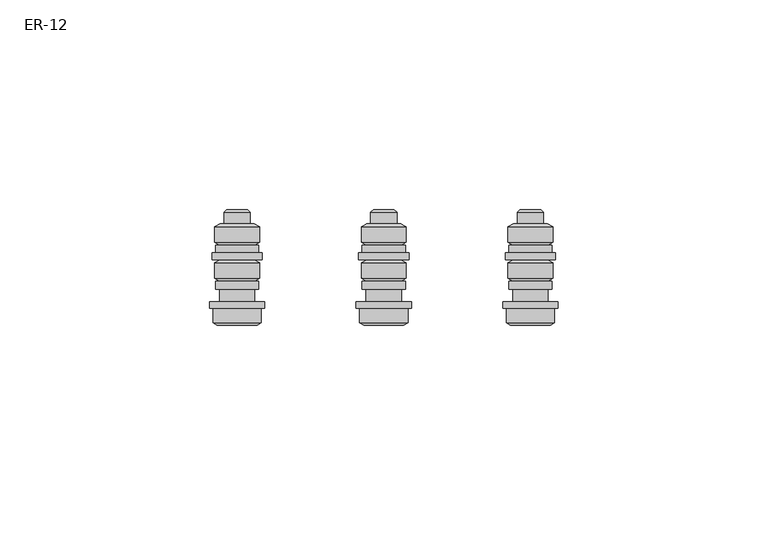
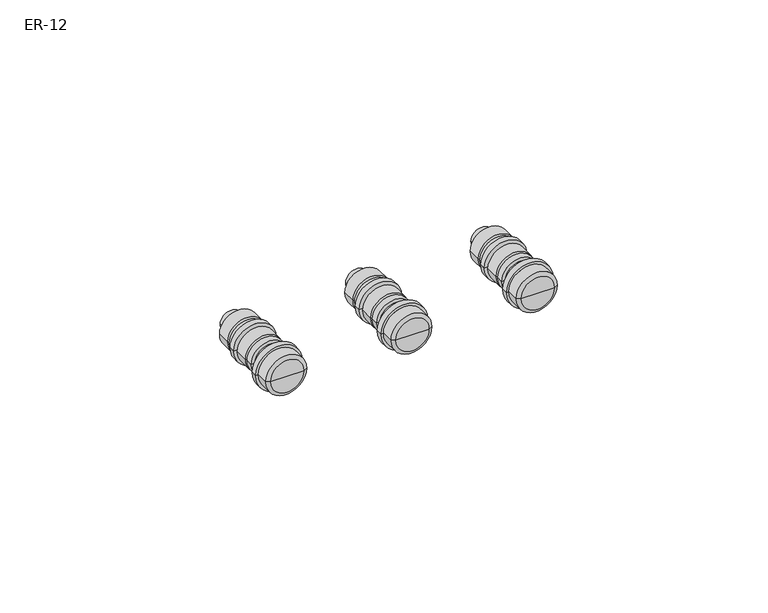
"""IFC4 building model written with IfcOpenShell, lengths in millimetres: proxy geometry, Шина заземления : ER-12."""

from ifc_helpers import new_model, si_unit, frame, origin, place, context, project, spatial, polyline, circle_curve, source, transform, mapped, element, save
from ifc_brep_helpers import plane_surface, cylinder_surface, revolved_surface, advanced_brep


def er_12_f8e3c18a(model_context):
    return source(origin(), model_context, "Body", "AdvancedBrep", [
        advanced_brep(
        [(198.2735027, -8.0090804, 12.5), (186.7264973, -8.0090804, 12.5), (186.7264973, -4.6, 12.5), (198.2735027, -4.6, 12.5), (197.25, -8.6, 12.5), (187.75, -8.6, 12.5), (192.5, -8.6, 12.5), (194.9585, 18.9478942, 12.5), (190.0415, 18.9478942, 12.5), (192.5, 18.9478942, 12.5), (195.6171875, 18.3807956, 12.5), (189.3828125, 18.3807956, 12.5), (195.6171875, 15.6237103, 12.5), (189.3828125, 15.6237103, 12.5), (196.55, 15.6237103, 12.5), (188.45, 15.6237103, 12.5), (197.8235027, 14.8884531, 12.5), (187.1764973, 14.8884531, 12.5), (197.8235027, 11.1589674, 12.5), (187.1764973, 11.1589674, 12.5), (196.6901162, 10.4237103, 12.5), (188.3098838, 10.4237103, 12.5), (197.6759762, 10.4237103, 12.5), (187.3240238, 10.4237103, 12.5), (197.6759762, 8.637908, 12.5), (187.3240238, 8.637908, 12.5), (198.5, 8.637908, 12.5), (186.5, 8.637908, 12.5), (198.5, 7.037908, 12.5), (186.5, 7.037908, 12.5), (196.55, 7.037908, 12.5), (188.45, 7.037908, 12.5), (197.8235027, 6.3026509, 12.5), (187.1764973, 6.3026509, 12.5), (197.8235027, 2.5731651, 12.5), (187.1764973, 2.5731651, 12.5), (196.6901162, 1.837908, 12.5), (188.3098838, 1.837908, 12.5), (197.6759762, 1.837908, 12.5), (187.3240238, 1.837908, 12.5), (197.6759762, 0.0, 12.5), (187.3240238, 0.0, 12.5), (196.6901162, 0.0, 12.5), (188.3098838, 0.0, 12.5), (196.6901162, -3.0, 12.5), (188.3098838, -3.0, 12.5), (199.0647814, -3.0, 12.5), (185.9352186, -3.0, 12.5), (199.0647814, -4.6, 12.5), (185.9352186, -4.6, 12.5)],
        [
            (0, 1, circle_curve(frame((192.5, -8.0090804, 12.5), z_axis=(0.0, 1.0, 0.0), x_axis=(-1.0, 0.0, 0.0)), 5.7735027)),
            (1, 2),
            (2, 3, circle_curve(frame((192.5, -4.6, 12.5), z_axis=(0.0, -1.0, 0.0), x_axis=(-1.0, 0.0, 0.0)), 5.7735027)),
            (3, 0),
            (1, 0, circle_curve(frame((192.5, -8.0090804, 12.5), z_axis=(0.0, 1.0, 0.0), x_axis=(-1.0, 0.0, 0.0)), 5.7735027)),
            (3, 2, circle_curve(frame((192.5, -4.6, 12.5), z_axis=(0.0, -1.0, 0.0), x_axis=(-1.0, 0.0, 0.0)), 5.7735027)),
            (4, 5, circle_curve(frame((192.5, -8.6, 12.5), z_axis=(0.0, 1.0, 0.0), x_axis=(-1.0, 0.0, 0.0)), 4.75)),
            (5, 1),
            (0, 4),
            (5, 4, circle_curve(frame((192.5, -8.6, 12.5), z_axis=(0.0, 1.0, 0.0), x_axis=(-1.0, 0.0, 0.0)), 4.75)),
            (6, 5),
            (4, 6),
            (7, 8, circle_curve(frame((192.5, 18.9478942, 12.5), z_axis=(0.0, 1.0, 0.0), x_axis=(-1.0, 0.0, 0.0)), 2.4585)),
            (8, 9),
            (9, 7),
            (8, 7, circle_curve(frame((192.5, 18.9478942, 12.5), z_axis=(0.0, 1.0, 0.0), x_axis=(-1.0, 0.0, 0.0)), 2.4585)),
            (10, 11, circle_curve(frame((192.5, 18.3807956, 12.5), z_axis=(0.0, 1.0, 0.0), x_axis=(-1.0, 0.0, 0.0)), 3.1171875)),
            (11, 8),
            (7, 10),
            (11, 10, circle_curve(frame((192.5, 18.3807956, 12.5), z_axis=(0.0, 1.0, 0.0), x_axis=(-1.0, 0.0, 0.0)), 3.1171875)),
            (12, 13, circle_curve(frame((192.5, 15.6237103, 12.5), z_axis=(0.0, 1.0, 0.0), x_axis=(-1.0, 0.0, 0.0)), 3.1171875)),
            (13, 11),
            (10, 12),
            (13, 12, circle_curve(frame((192.5, 15.6237103, 12.5), z_axis=(0.0, 1.0, 0.0), x_axis=(-1.0, 0.0, 0.0)), 3.1171875)),
            (14, 15, circle_curve(frame((192.5, 15.6237103, 12.5), z_axis=(0.0, 1.0, 0.0), x_axis=(-1.0, 0.0, 0.0)), 4.05)),
            (15, 13),
            (12, 14),
            (15, 14, circle_curve(frame((192.5, 15.6237103, 12.5), z_axis=(0.0, 1.0, 0.0), x_axis=(-1.0, 0.0, 0.0)), 4.05)),
            (16, 17, circle_curve(frame((192.5, 14.8884531, 12.5), z_axis=(0.0, 1.0, 0.0), x_axis=(-1.0, 0.0, 0.0)), 5.3235027)),
            (17, 15),
            (14, 16),
            (17, 16, circle_curve(frame((192.5, 14.8884531, 12.5), z_axis=(0.0, 1.0, 0.0), x_axis=(-1.0, 0.0, 0.0)), 5.3235027)),
            (18, 19, circle_curve(frame((192.5, 11.1589674, 12.5), z_axis=(0.0, 1.0, 0.0), x_axis=(-1.0, 0.0, 0.0)), 5.3235027)),
            (19, 17),
            (16, 18),
            (19, 18, circle_curve(frame((192.5, 11.1589674, 12.5), z_axis=(0.0, 1.0, 0.0), x_axis=(-1.0, 0.0, 0.0)), 5.3235027)),
            (20, 21, circle_curve(frame((192.5, 10.4237103, 12.5), z_axis=(0.0, 1.0, 0.0), x_axis=(-1.0, 0.0, 0.0)), 4.1901162)),
            (21, 19),
            (18, 20),
            (21, 20, circle_curve(frame((192.5, 10.4237103, 12.5), z_axis=(0.0, 1.0, 0.0), x_axis=(-1.0, 0.0, 0.0)), 4.1901162)),
            (22, 23, circle_curve(frame((192.5, 10.4237103, 12.5), z_axis=(0.0, 1.0, 0.0), x_axis=(-1.0, 0.0, 0.0)), 5.1759762)),
            (23, 21),
            (20, 22),
            (23, 22, circle_curve(frame((192.5, 10.4237103, 12.5), z_axis=(0.0, 1.0, 0.0), x_axis=(-1.0, 0.0, 0.0)), 5.1759762)),
            (24, 25, circle_curve(frame((192.5, 8.637908, 12.5), z_axis=(0.0, 1.0, 0.0), x_axis=(-1.0, 0.0, 0.0)), 5.1759762)),
            (25, 23),
            (22, 24),
            (25, 24, circle_curve(frame((192.5, 8.637908, 12.5), z_axis=(0.0, 1.0, 0.0), x_axis=(-1.0, 0.0, 0.0)), 5.1759762)),
            (26, 27, circle_curve(frame((192.5, 8.637908, 12.5), z_axis=(0.0, 1.0, 0.0), x_axis=(-1.0, 0.0, 0.0)), 6.0)),
            (27, 25),
            (24, 26),
            (27, 26, circle_curve(frame((192.5, 8.637908, 12.5), z_axis=(0.0, 1.0, 0.0), x_axis=(-1.0, 0.0, 0.0)), 6.0)),
            (28, 29, circle_curve(frame((192.5, 7.037908, 12.5), z_axis=(0.0, 1.0, 0.0), x_axis=(-1.0, 0.0, 0.0)), 6.0)),
            (29, 27),
            (26, 28),
            (29, 28, circle_curve(frame((192.5, 7.037908, 12.5), z_axis=(0.0, 1.0, 0.0), x_axis=(-1.0, 0.0, 0.0)), 6.0)),
            (30, 31, circle_curve(frame((192.5, 7.037908, 12.5), z_axis=(0.0, 1.0, 0.0), x_axis=(-1.0, 0.0, 0.0)), 4.05)),
            (31, 29),
            (28, 30),
            (31, 30, circle_curve(frame((192.5, 7.037908, 12.5), z_axis=(0.0, 1.0, 0.0), x_axis=(-1.0, 0.0, 0.0)), 4.05)),
            (32, 33, circle_curve(frame((192.5, 6.3026509, 12.5), z_axis=(0.0, 1.0, 0.0), x_axis=(-1.0, 0.0, 0.0)), 5.3235027)),
            (33, 31),
            (30, 32),
            (33, 32, circle_curve(frame((192.5, 6.3026509, 12.5), z_axis=(0.0, 1.0, 0.0), x_axis=(-1.0, 0.0, 0.0)), 5.3235027)),
            (34, 35, circle_curve(frame((192.5, 2.5731651, 12.5), z_axis=(0.0, 1.0, 0.0), x_axis=(-1.0, 0.0, 0.0)), 5.3235027)),
            (35, 33),
            (32, 34),
            (35, 34, circle_curve(frame((192.5, 2.5731651, 12.5), z_axis=(0.0, 1.0, 0.0), x_axis=(-1.0, 0.0, 0.0)), 5.3235027)),
            (36, 37, circle_curve(frame((192.5, 1.837908, 12.5), z_axis=(0.0, 1.0, 0.0), x_axis=(-1.0, 0.0, 0.0)), 4.1901162)),
            (37, 35),
            (34, 36),
            (37, 36, circle_curve(frame((192.5, 1.837908, 12.5), z_axis=(0.0, 1.0, 0.0), x_axis=(-1.0, 0.0, 0.0)), 4.1901162)),
            (38, 39, circle_curve(frame((192.5, 1.837908, 12.5), z_axis=(0.0, 1.0, 0.0), x_axis=(-1.0, 0.0, 0.0)), 5.1759762)),
            (39, 37),
            (36, 38),
            (39, 38, circle_curve(frame((192.5, 1.837908, 12.5), z_axis=(0.0, 1.0, 0.0), x_axis=(-1.0, 0.0, 0.0)), 5.1759762)),
            (40, 41, circle_curve(frame((192.5, 0.0, 12.5), z_axis=(0.0, 1.0, 0.0), x_axis=(-1.0, 0.0, 0.0)), 5.1759762)),
            (41, 39),
            (38, 40),
            (41, 40, circle_curve(frame((192.5, 0.0, 12.5), z_axis=(0.0, 1.0, 0.0), x_axis=(-1.0, 0.0, 0.0)), 5.1759762)),
            (42, 43, circle_curve(frame((192.5, 0.0, 12.5), z_axis=(0.0, 1.0, 0.0), x_axis=(-1.0, 0.0, 0.0)), 4.1901162)),
            (43, 41),
            (40, 42),
            (43, 42, circle_curve(frame((192.5, 0.0, 12.5), z_axis=(0.0, 1.0, 0.0), x_axis=(-1.0, 0.0, 0.0)), 4.1901162)),
            (44, 45, circle_curve(frame((192.5, -3.0, 12.5), z_axis=(0.0, 1.0, 0.0), x_axis=(-1.0, 0.0, 0.0)), 4.1901162)),
            (45, 43),
            (42, 44),
            (45, 44, circle_curve(frame((192.5, -3.0, 12.5), z_axis=(0.0, 1.0, 0.0), x_axis=(-1.0, 0.0, 0.0)), 4.1901162)),
            (46, 47, circle_curve(frame((192.5, -3.0, 12.5), z_axis=(0.0, 1.0, 0.0), x_axis=(-1.0, 0.0, 0.0)), 6.5647814)),
            (47, 45),
            (44, 46),
            (47, 46, circle_curve(frame((192.5, -3.0, 12.5), z_axis=(0.0, 1.0, 0.0), x_axis=(-1.0, 0.0, 0.0)), 6.5647814)),
            (48, 49, circle_curve(frame((192.5, -4.6, 12.5), z_axis=(0.0, 1.0, 0.0), x_axis=(-1.0, 0.0, 0.0)), 6.5647814)),
            (49, 47),
            (46, 48),
            (49, 48, circle_curve(frame((192.5, -4.6, 12.5), z_axis=(0.0, 1.0, 0.0), x_axis=(-1.0, 0.0, 0.0)), 6.5647814)),
            (2, 49),
            (48, 3),
        ],
        [
            cylinder_surface(frame((192.5, 18.9478942, 12.5), z_axis=(0.0, -1.0, 0.0), x_axis=(-1.0, 0.0, 0.0)), 5.7735027),
            revolved_surface(polyline([(186.7264973, -8.0090804, 12.5), (187.75, -8.6, 12.5)]), (192.5, 18.9478942, 12.5), (0.0, -1.0, 0.0)),
            plane_surface(frame((192.5, -8.6, 12.5), z_axis=(0.0, -1.0, 0.0), x_axis=(-1.0, 0.0, 0.0))),
            plane_surface(frame((192.5, 18.9478942, 12.5), z_axis=(0.0, 1.0, 0.0), x_axis=(-1.0, 0.0, 0.0))),
            revolved_surface(polyline([(190.0415, 18.9478942, 12.5), (189.3828125, 18.3807956, 12.5)]), (192.5, 18.9478942, 12.5), (0.0, -1.0, 0.0)),
            cylinder_surface(frame((192.5, 18.9478942, 12.5), z_axis=(0.0, -1.0, 0.0), x_axis=(-1.0, 0.0, 0.0)), 3.1171875),
            plane_surface(frame((192.5, 15.6237103, 12.5), z_axis=(0.0, 1.0, 0.0), x_axis=(-1.0, 0.0, 0.0))),
            revolved_surface(polyline([(188.45, 15.6237103, 12.5), (187.1764973, 14.8884531, 12.5)]), (192.5, 18.9478942, 12.5), (0.0, -1.0, 0.0)),
            cylinder_surface(frame((192.5, 18.9478942, 12.5), z_axis=(0.0, -1.0, 0.0), x_axis=(-1.0, 0.0, 0.0)), 5.3235027),
            revolved_surface(polyline([(187.1764973, 11.1589674, 12.5), (188.3098838, 10.4237103, 12.5)]), (192.5, 18.9478942, 12.5), (0.0, -1.0, 0.0)),
            plane_surface(frame((192.5, 10.4237103, 12.5), z_axis=(0.0, 1.0, 0.0), x_axis=(-1.0, 0.0, 0.0))),
            cylinder_surface(frame((192.5, 18.9478942, 12.5), z_axis=(0.0, -1.0, 0.0), x_axis=(-1.0, 0.0, 0.0)), 5.1759762),
            plane_surface(frame((192.5, 8.637908, 12.5), z_axis=(0.0, 1.0, 0.0), x_axis=(-1.0, 0.0, 0.0))),
            cylinder_surface(frame((192.5, 18.9478942, 12.5), z_axis=(0.0, -1.0, 0.0), x_axis=(-1.0, 0.0, 0.0)), 6.0),
            plane_surface(frame((192.5, 7.037908, 12.5), z_axis=(0.0, -1.0, 0.0), x_axis=(-1.0, 0.0, 0.0))),
            revolved_surface(polyline([(188.45, 7.037908, 12.5), (187.1764973, 6.3026509, 12.5)]), (192.5, 18.9478942, 12.5), (0.0, -1.0, 0.0)),
            revolved_surface(polyline([(187.1764973, 2.5731651, 12.5), (188.3098838, 1.837908, 12.5)]), (192.5, 18.9478942, 12.5), (0.0, -1.0, 0.0)),
            plane_surface(frame((192.5, 1.837908, 12.5), z_axis=(0.0, 1.0, 0.0), x_axis=(-1.0, 0.0, 0.0))),
            plane_surface(frame((192.5, 0.0, 12.5), z_axis=(0.0, -1.0, 0.0), x_axis=(-1.0, 0.0, 0.0))),
            cylinder_surface(frame((192.5, 18.9478942, 12.5), z_axis=(0.0, -1.0, 0.0), x_axis=(-1.0, 0.0, 0.0)), 4.1901162),
            plane_surface(frame((192.5, -3.0, 12.5), z_axis=(0.0, 1.0, 0.0), x_axis=(-1.0, 0.0, 0.0))),
            cylinder_surface(frame((192.5, 18.9478942, 12.5), z_axis=(0.0, -1.0, 0.0), x_axis=(-1.0, 0.0, 0.0)), 6.5647814),
            plane_surface(frame((192.5, -4.6, 12.5), z_axis=(0.0, -1.0, 0.0), x_axis=(-1.0, 0.0, 0.0))),
        ],
        [
            (0, [[1, 2, 3, 4]]),
            (0, [[5, -4, 6, -2]]),
            (1, [[7, 8, -1, 9]]),
            (1, [[10, -9, -5, -8]]),
            (2, [[11, -7, 12]]),
            (2, [[-12, -10, -11]]),
            (3, [[13, 14, 15]]),
            (3, [[16, -15, -14]]),
            (4, [[17, 18, -13, 19]]),
            (4, [[20, -19, -16, -18]]),
            (5, [[21, 22, -17, 23]]),
            (5, [[24, -23, -20, -22]]),
            (6, [[25, 26, -21, 27]]),
            (6, [[28, -27, -24, -26]]),
            (7, [[29, 30, -25, 31]]),
            (7, [[32, -31, -28, -30]]),
            (8, [[33, 34, -29, 35]]),
            (8, [[36, -35, -32, -34]]),
            (9, [[37, 38, -33, 39]]),
            (9, [[40, -39, -36, -38]]),
            (10, [[41, 42, -37, 43]]),
            (10, [[44, -43, -40, -42]]),
            (11, [[45, 46, -41, 47]]),
            (11, [[48, -47, -44, -46]]),
            (12, [[49, 50, -45, 51]]),
            (12, [[52, -51, -48, -50]]),
            (13, [[53, 54, -49, 55]]),
            (13, [[56, -55, -52, -54]]),
            (14, [[57, 58, -53, 59]]),
            (14, [[60, -59, -56, -58]]),
            (15, [[61, 62, -57, 63]]),
            (15, [[64, -63, -60, -62]]),
            (8, [[65, 66, -61, 67]]),
            (8, [[68, -67, -64, -66]]),
            (16, [[69, 70, -65, 71]]),
            (16, [[72, -71, -68, -70]]),
            (17, [[73, 74, -69, 75]]),
            (17, [[76, -75, -72, -74]]),
            (11, [[77, 78, -73, 79]]),
            (11, [[80, -79, -76, -78]]),
            (18, [[81, 82, -77, 83]]),
            (18, [[84, -83, -80, -82]]),
            (19, [[85, 86, -81, 87]]),
            (19, [[88, -87, -84, -86]]),
            (20, [[89, 90, -85, 91]]),
            (20, [[92, -91, -88, -90]]),
            (21, [[93, 94, -89, 95]]),
            (21, [[96, -95, -92, -94]]),
            (22, [[-3, 97, -93, 98]]),
            (22, [[-6, -98, -96, -97]]),
        ],
    ),
        advanced_brep(
        [(163.2735027, -8.0090804, 12.5), (151.7264973, -8.0090804, 12.5), (151.7264973, -4.6, 12.5), (163.2735027, -4.6, 12.5), (162.25, -8.6, 12.5), (152.75, -8.6, 12.5), (157.5, -8.6, 12.5), (159.9585, 18.9478942, 12.5), (155.0415, 18.9478942, 12.5), (157.5, 18.9478942, 12.5), (160.6171875, 18.3807956, 12.5), (154.3828125, 18.3807956, 12.5), (160.6171875, 15.6237103, 12.5), (154.3828125, 15.6237103, 12.5), (161.55, 15.6237103, 12.5), (153.45, 15.6237103, 12.5), (162.8235027, 14.8884531, 12.5), (152.1764973, 14.8884531, 12.5), (162.8235027, 11.1589674, 12.5), (152.1764973, 11.1589674, 12.5), (161.6901162, 10.4237103, 12.5), (153.3098838, 10.4237103, 12.5), (162.6759762, 10.4237103, 12.5), (152.3240238, 10.4237103, 12.5), (162.6759762, 8.637908, 12.5), (152.3240238, 8.637908, 12.5), (163.5, 8.637908, 12.5), (151.5, 8.637908, 12.5), (163.5, 7.037908, 12.5), (151.5, 7.037908, 12.5), (161.55, 7.037908, 12.5), (153.45, 7.037908, 12.5), (162.8235027, 6.3026509, 12.5), (152.1764973, 6.3026509, 12.5), (162.8235027, 2.5731651, 12.5), (152.1764973, 2.5731651, 12.5), (161.6901162, 1.837908, 12.5), (153.3098838, 1.837908, 12.5), (162.6759762, 1.837908, 12.5), (152.3240238, 1.837908, 12.5), (162.6759762, 0.0, 12.5), (152.3240238, 0.0, 12.5), (161.6901162, 0.0, 12.5), (153.3098838, 0.0, 12.5), (161.6901162, -3.0, 12.5), (153.3098838, -3.0, 12.5), (164.0647814, -3.0, 12.5), (150.9352186, -3.0, 12.5), (164.0647814, -4.6, 12.5), (150.9352186, -4.6, 12.5)],
        [
            (0, 1, circle_curve(frame((157.5, -8.0090804, 12.5), z_axis=(0.0, 1.0, 0.0), x_axis=(-1.0, 0.0, 0.0)), 5.7735027)),
            (1, 2),
            (2, 3, circle_curve(frame((157.5, -4.6, 12.5), z_axis=(0.0, -1.0, 0.0), x_axis=(-1.0, 0.0, 0.0)), 5.7735027)),
            (3, 0),
            (1, 0, circle_curve(frame((157.5, -8.0090804, 12.5), z_axis=(0.0, 1.0, 0.0), x_axis=(-1.0, 0.0, 0.0)), 5.7735027)),
            (3, 2, circle_curve(frame((157.5, -4.6, 12.5), z_axis=(0.0, -1.0, 0.0), x_axis=(-1.0, 0.0, 0.0)), 5.7735027)),
            (4, 5, circle_curve(frame((157.5, -8.6, 12.5), z_axis=(0.0, 1.0, 0.0), x_axis=(-1.0, 0.0, 0.0)), 4.75)),
            (5, 1),
            (0, 4),
            (5, 4, circle_curve(frame((157.5, -8.6, 12.5), z_axis=(0.0, 1.0, 0.0), x_axis=(-1.0, 0.0, 0.0)), 4.75)),
            (6, 5),
            (4, 6),
            (7, 8, circle_curve(frame((157.5, 18.9478942, 12.5), z_axis=(0.0, 1.0, 0.0), x_axis=(-1.0, 0.0, 0.0)), 2.4585)),
            (8, 9),
            (9, 7),
            (8, 7, circle_curve(frame((157.5, 18.9478942, 12.5), z_axis=(0.0, 1.0, 0.0), x_axis=(-1.0, 0.0, 0.0)), 2.4585)),
            (10, 11, circle_curve(frame((157.5, 18.3807956, 12.5), z_axis=(0.0, 1.0, 0.0), x_axis=(-1.0, 0.0, 0.0)), 3.1171875)),
            (11, 8),
            (7, 10),
            (11, 10, circle_curve(frame((157.5, 18.3807956, 12.5), z_axis=(0.0, 1.0, 0.0), x_axis=(-1.0, 0.0, 0.0)), 3.1171875)),
            (12, 13, circle_curve(frame((157.5, 15.6237103, 12.5), z_axis=(0.0, 1.0, 0.0), x_axis=(-1.0, 0.0, 0.0)), 3.1171875)),
            (13, 11),
            (10, 12),
            (13, 12, circle_curve(frame((157.5, 15.6237103, 12.5), z_axis=(0.0, 1.0, 0.0), x_axis=(-1.0, 0.0, 0.0)), 3.1171875)),
            (14, 15, circle_curve(frame((157.5, 15.6237103, 12.5), z_axis=(0.0, 1.0, 0.0), x_axis=(-1.0, 0.0, 0.0)), 4.05)),
            (15, 13),
            (12, 14),
            (15, 14, circle_curve(frame((157.5, 15.6237103, 12.5), z_axis=(0.0, 1.0, 0.0), x_axis=(-1.0, 0.0, 0.0)), 4.05)),
            (16, 17, circle_curve(frame((157.5, 14.8884531, 12.5), z_axis=(0.0, 1.0, 0.0), x_axis=(-1.0, 0.0, 0.0)), 5.3235027)),
            (17, 15),
            (14, 16),
            (17, 16, circle_curve(frame((157.5, 14.8884531, 12.5), z_axis=(0.0, 1.0, 0.0), x_axis=(-1.0, 0.0, 0.0)), 5.3235027)),
            (18, 19, circle_curve(frame((157.5, 11.1589674, 12.5), z_axis=(0.0, 1.0, 0.0), x_axis=(-1.0, 0.0, 0.0)), 5.3235027)),
            (19, 17),
            (16, 18),
            (19, 18, circle_curve(frame((157.5, 11.1589674, 12.5), z_axis=(0.0, 1.0, 0.0), x_axis=(-1.0, 0.0, 0.0)), 5.3235027)),
            (20, 21, circle_curve(frame((157.5, 10.4237103, 12.5), z_axis=(0.0, 1.0, 0.0), x_axis=(-1.0, 0.0, 0.0)), 4.1901162)),
            (21, 19),
            (18, 20),
            (21, 20, circle_curve(frame((157.5, 10.4237103, 12.5), z_axis=(0.0, 1.0, 0.0), x_axis=(-1.0, 0.0, 0.0)), 4.1901162)),
            (22, 23, circle_curve(frame((157.5, 10.4237103, 12.5), z_axis=(0.0, 1.0, 0.0), x_axis=(-1.0, 0.0, 0.0)), 5.1759762)),
            (23, 21),
            (20, 22),
            (23, 22, circle_curve(frame((157.5, 10.4237103, 12.5), z_axis=(0.0, 1.0, 0.0), x_axis=(-1.0, 0.0, 0.0)), 5.1759762)),
            (24, 25, circle_curve(frame((157.5, 8.637908, 12.5), z_axis=(0.0, 1.0, 0.0), x_axis=(-1.0, 0.0, 0.0)), 5.1759762)),
            (25, 23),
            (22, 24),
            (25, 24, circle_curve(frame((157.5, 8.637908, 12.5), z_axis=(0.0, 1.0, 0.0), x_axis=(-1.0, 0.0, 0.0)), 5.1759762)),
            (26, 27, circle_curve(frame((157.5, 8.637908, 12.5), z_axis=(0.0, 1.0, 0.0), x_axis=(-1.0, 0.0, 0.0)), 6.0)),
            (27, 25),
            (24, 26),
            (27, 26, circle_curve(frame((157.5, 8.637908, 12.5), z_axis=(0.0, 1.0, 0.0), x_axis=(-1.0, 0.0, 0.0)), 6.0)),
            (28, 29, circle_curve(frame((157.5, 7.037908, 12.5), z_axis=(0.0, 1.0, 0.0), x_axis=(-1.0, 0.0, 0.0)), 6.0)),
            (29, 27),
            (26, 28),
            (29, 28, circle_curve(frame((157.5, 7.037908, 12.5), z_axis=(0.0, 1.0, 0.0), x_axis=(-1.0, 0.0, 0.0)), 6.0)),
            (30, 31, circle_curve(frame((157.5, 7.037908, 12.5), z_axis=(0.0, 1.0, 0.0), x_axis=(-1.0, 0.0, 0.0)), 4.05)),
            (31, 29),
            (28, 30),
            (31, 30, circle_curve(frame((157.5, 7.037908, 12.5), z_axis=(0.0, 1.0, 0.0), x_axis=(-1.0, 0.0, 0.0)), 4.05)),
            (32, 33, circle_curve(frame((157.5, 6.3026509, 12.5), z_axis=(0.0, 1.0, 0.0), x_axis=(-1.0, 0.0, 0.0)), 5.3235027)),
            (33, 31),
            (30, 32),
            (33, 32, circle_curve(frame((157.5, 6.3026509, 12.5), z_axis=(0.0, 1.0, 0.0), x_axis=(-1.0, 0.0, 0.0)), 5.3235027)),
            (34, 35, circle_curve(frame((157.5, 2.5731651, 12.5), z_axis=(0.0, 1.0, 0.0), x_axis=(-1.0, 0.0, 0.0)), 5.3235027)),
            (35, 33),
            (32, 34),
            (35, 34, circle_curve(frame((157.5, 2.5731651, 12.5), z_axis=(0.0, 1.0, 0.0), x_axis=(-1.0, 0.0, 0.0)), 5.3235027)),
            (36, 37, circle_curve(frame((157.5, 1.837908, 12.5), z_axis=(0.0, 1.0, 0.0), x_axis=(-1.0, 0.0, 0.0)), 4.1901162)),
            (37, 35),
            (34, 36),
            (37, 36, circle_curve(frame((157.5, 1.837908, 12.5), z_axis=(0.0, 1.0, 0.0), x_axis=(-1.0, 0.0, 0.0)), 4.1901162)),
            (38, 39, circle_curve(frame((157.5, 1.837908, 12.5), z_axis=(0.0, 1.0, 0.0), x_axis=(-1.0, 0.0, 0.0)), 5.1759762)),
            (39, 37),
            (36, 38),
            (39, 38, circle_curve(frame((157.5, 1.837908, 12.5), z_axis=(0.0, 1.0, 0.0), x_axis=(-1.0, 0.0, 0.0)), 5.1759762)),
            (40, 41, circle_curve(frame((157.5, 0.0, 12.5), z_axis=(0.0, 1.0, 0.0), x_axis=(-1.0, 0.0, 0.0)), 5.1759762)),
            (41, 39),
            (38, 40),
            (41, 40, circle_curve(frame((157.5, 0.0, 12.5), z_axis=(0.0, 1.0, 0.0), x_axis=(-1.0, 0.0, 0.0)), 5.1759762)),
            (42, 43, circle_curve(frame((157.5, 0.0, 12.5), z_axis=(0.0, 1.0, 0.0), x_axis=(-1.0, 0.0, 0.0)), 4.1901162)),
            (43, 41),
            (40, 42),
            (43, 42, circle_curve(frame((157.5, 0.0, 12.5), z_axis=(0.0, 1.0, 0.0), x_axis=(-1.0, 0.0, 0.0)), 4.1901162)),
            (44, 45, circle_curve(frame((157.5, -3.0, 12.5), z_axis=(0.0, 1.0, 0.0), x_axis=(-1.0, 0.0, 0.0)), 4.1901162)),
            (45, 43),
            (42, 44),
            (45, 44, circle_curve(frame((157.5, -3.0, 12.5), z_axis=(0.0, 1.0, 0.0), x_axis=(-1.0, 0.0, 0.0)), 4.1901162)),
            (46, 47, circle_curve(frame((157.5, -3.0, 12.5), z_axis=(0.0, 1.0, 0.0), x_axis=(-1.0, 0.0, 0.0)), 6.5647814)),
            (47, 45),
            (44, 46),
            (47, 46, circle_curve(frame((157.5, -3.0, 12.5), z_axis=(0.0, 1.0, 0.0), x_axis=(-1.0, 0.0, 0.0)), 6.5647814)),
            (48, 49, circle_curve(frame((157.5, -4.6, 12.5), z_axis=(0.0, 1.0, 0.0), x_axis=(-1.0, 0.0, 0.0)), 6.5647814)),
            (49, 47),
            (46, 48),
            (49, 48, circle_curve(frame((157.5, -4.6, 12.5), z_axis=(0.0, 1.0, 0.0), x_axis=(-1.0, 0.0, 0.0)), 6.5647814)),
            (2, 49),
            (48, 3),
        ],
        [
            cylinder_surface(frame((157.5, 18.9478942, 12.5), z_axis=(0.0, -1.0, 0.0), x_axis=(-1.0, 0.0, 0.0)), 5.7735027),
            revolved_surface(polyline([(151.7264973, -8.0090804, 12.5), (152.75, -8.6, 12.5)]), (157.5, 18.9478942, 12.5), (0.0, -1.0, 0.0)),
            plane_surface(frame((157.5, -8.6, 12.5), z_axis=(0.0, -1.0, 0.0), x_axis=(-1.0, 0.0, 0.0))),
            plane_surface(frame((157.5, 18.9478942, 12.5), z_axis=(0.0, 1.0, 0.0), x_axis=(-1.0, 0.0, 0.0))),
            revolved_surface(polyline([(155.0415, 18.9478942, 12.5), (154.3828125, 18.3807956, 12.5)]), (157.5, 18.9478942, 12.5), (0.0, -1.0, 0.0)),
            cylinder_surface(frame((157.5, 18.9478942, 12.5), z_axis=(0.0, -1.0, 0.0), x_axis=(-1.0, 0.0, 0.0)), 3.1171875),
            plane_surface(frame((157.5, 15.6237103, 12.5), z_axis=(0.0, 1.0, 0.0), x_axis=(-1.0, 0.0, 0.0))),
            revolved_surface(polyline([(153.45, 15.6237103, 12.5), (152.1764973, 14.8884531, 12.5)]), (157.5, 18.9478942, 12.5), (0.0, -1.0, 0.0)),
            cylinder_surface(frame((157.5, 18.9478942, 12.5), z_axis=(0.0, -1.0, 0.0), x_axis=(-1.0, 0.0, 0.0)), 5.3235027),
            revolved_surface(polyline([(152.1764973, 11.1589674, 12.5), (153.3098838, 10.4237103, 12.5)]), (157.5, 18.9478942, 12.5), (0.0, -1.0, 0.0)),
            plane_surface(frame((157.5, 10.4237103, 12.5), z_axis=(0.0, 1.0, 0.0), x_axis=(-1.0, 0.0, 0.0))),
            cylinder_surface(frame((157.5, 18.9478942, 12.5), z_axis=(0.0, -1.0, 0.0), x_axis=(-1.0, 0.0, 0.0)), 5.1759762),
            plane_surface(frame((157.5, 8.637908, 12.5), z_axis=(0.0, 1.0, 0.0), x_axis=(-1.0, 0.0, 0.0))),
            cylinder_surface(frame((157.5, 18.9478942, 12.5), z_axis=(0.0, -1.0, 0.0), x_axis=(-1.0, 0.0, 0.0)), 6.0),
            plane_surface(frame((157.5, 7.037908, 12.5), z_axis=(0.0, -1.0, 0.0), x_axis=(-1.0, 0.0, 0.0))),
            revolved_surface(polyline([(153.45, 7.037908, 12.5), (152.1764973, 6.3026509, 12.5)]), (157.5, 18.9478942, 12.5), (0.0, -1.0, 0.0)),
            revolved_surface(polyline([(152.1764973, 2.5731651, 12.5), (153.3098838, 1.837908, 12.5)]), (157.5, 18.9478942, 12.5), (0.0, -1.0, 0.0)),
            plane_surface(frame((157.5, 1.837908, 12.5), z_axis=(0.0, 1.0, 0.0), x_axis=(-1.0, 0.0, 0.0))),
            plane_surface(frame((157.5, 0.0, 12.5), z_axis=(0.0, -1.0, 0.0), x_axis=(-1.0, 0.0, 0.0))),
            cylinder_surface(frame((157.5, 18.9478942, 12.5), z_axis=(0.0, -1.0, 0.0), x_axis=(-1.0, 0.0, 0.0)), 4.1901162),
            plane_surface(frame((157.5, -3.0, 12.5), z_axis=(0.0, 1.0, 0.0), x_axis=(-1.0, 0.0, 0.0))),
            cylinder_surface(frame((157.5, 18.9478942, 12.5), z_axis=(0.0, -1.0, 0.0), x_axis=(-1.0, 0.0, 0.0)), 6.5647814),
            plane_surface(frame((157.5, -4.6, 12.5), z_axis=(0.0, -1.0, 0.0), x_axis=(-1.0, 0.0, 0.0))),
        ],
        [
            (0, [[1, 2, 3, 4]]),
            (0, [[5, -4, 6, -2]]),
            (1, [[7, 8, -1, 9]]),
            (1, [[10, -9, -5, -8]]),
            (2, [[11, -7, 12]]),
            (2, [[-12, -10, -11]]),
            (3, [[13, 14, 15]]),
            (3, [[16, -15, -14]]),
            (4, [[17, 18, -13, 19]]),
            (4, [[20, -19, -16, -18]]),
            (5, [[21, 22, -17, 23]]),
            (5, [[24, -23, -20, -22]]),
            (6, [[25, 26, -21, 27]]),
            (6, [[28, -27, -24, -26]]),
            (7, [[29, 30, -25, 31]]),
            (7, [[32, -31, -28, -30]]),
            (8, [[33, 34, -29, 35]]),
            (8, [[36, -35, -32, -34]]),
            (9, [[37, 38, -33, 39]]),
            (9, [[40, -39, -36, -38]]),
            (10, [[41, 42, -37, 43]]),
            (10, [[44, -43, -40, -42]]),
            (11, [[45, 46, -41, 47]]),
            (11, [[48, -47, -44, -46]]),
            (12, [[49, 50, -45, 51]]),
            (12, [[52, -51, -48, -50]]),
            (13, [[53, 54, -49, 55]]),
            (13, [[56, -55, -52, -54]]),
            (14, [[57, 58, -53, 59]]),
            (14, [[60, -59, -56, -58]]),
            (15, [[61, 62, -57, 63]]),
            (15, [[64, -63, -60, -62]]),
            (8, [[65, 66, -61, 67]]),
            (8, [[68, -67, -64, -66]]),
            (16, [[69, 70, -65, 71]]),
            (16, [[72, -71, -68, -70]]),
            (17, [[73, 74, -69, 75]]),
            (17, [[76, -75, -72, -74]]),
            (11, [[77, 78, -73, 79]]),
            (11, [[80, -79, -76, -78]]),
            (18, [[81, 82, -77, 83]]),
            (18, [[84, -83, -80, -82]]),
            (19, [[85, 86, -81, 87]]),
            (19, [[88, -87, -84, -86]]),
            (20, [[89, 90, -85, 91]]),
            (20, [[92, -91, -88, -90]]),
            (21, [[93, 94, -89, 95]]),
            (21, [[96, -95, -92, -94]]),
            (22, [[-3, 97, -93, 98]]),
            (22, [[-6, -98, -96, -97]]),
        ],
    ),
        advanced_brep(
        [(128.2735027, -8.0090804, 12.5), (116.7264973, -8.0090804, 12.5), (116.7264973, -4.6, 12.5), (128.2735027, -4.6, 12.5), (127.25, -8.6, 12.5), (117.75, -8.6, 12.5), (122.5, -8.6, 12.5), (124.9585, 18.9478942, 12.5), (120.0415, 18.9478942, 12.5), (122.5, 18.9478942, 12.5), (125.6171875, 18.3807956, 12.5), (119.3828125, 18.3807956, 12.5), (125.6171875, 15.6237103, 12.5), (119.3828125, 15.6237103, 12.5), (126.55, 15.6237103, 12.5), (118.45, 15.6237103, 12.5), (127.8235027, 14.8884531, 12.5), (117.1764973, 14.8884531, 12.5), (127.8235027, 11.1589674, 12.5), (117.1764973, 11.1589674, 12.5), (126.6901162, 10.4237103, 12.5), (118.3098838, 10.4237103, 12.5), (127.6759762, 10.4237103, 12.5), (117.3240238, 10.4237103, 12.5), (127.6759762, 8.637908, 12.5), (117.3240238, 8.637908, 12.5), (128.5, 8.637908, 12.5), (116.5, 8.637908, 12.5), (128.5, 7.037908, 12.5), (116.5, 7.037908, 12.5), (126.55, 7.037908, 12.5), (118.45, 7.037908, 12.5), (127.8235027, 6.3026509, 12.5), (117.1764973, 6.3026509, 12.5), (127.8235027, 2.5731651, 12.5), (117.1764973, 2.5731651, 12.5), (126.6901162, 1.837908, 12.5), (118.3098838, 1.837908, 12.5), (127.6759762, 1.837908, 12.5), (117.3240238, 1.837908, 12.5), (127.6759762, 0.0, 12.5), (117.3240238, 0.0, 12.5), (126.6901162, 0.0, 12.5), (118.3098838, 0.0, 12.5), (126.6901162, -3.0, 12.5), (118.3098838, -3.0, 12.5), (129.0647814, -3.0, 12.5), (115.9352186, -3.0, 12.5), (129.0647814, -4.6, 12.5), (115.9352186, -4.6, 12.5)],
        [
            (0, 1, circle_curve(frame((122.5, -8.0090804, 12.5), z_axis=(0.0, 1.0, 0.0), x_axis=(-1.0, 0.0, 0.0)), 5.7735027)),
            (1, 2),
            (2, 3, circle_curve(frame((122.5, -4.6, 12.5), z_axis=(0.0, -1.0, 0.0), x_axis=(-1.0, 0.0, 0.0)), 5.7735027)),
            (3, 0),
            (1, 0, circle_curve(frame((122.5, -8.0090804, 12.5), z_axis=(0.0, 1.0, 0.0), x_axis=(-1.0, 0.0, 0.0)), 5.7735027)),
            (3, 2, circle_curve(frame((122.5, -4.6, 12.5), z_axis=(0.0, -1.0, 0.0), x_axis=(-1.0, 0.0, 0.0)), 5.7735027)),
            (4, 5, circle_curve(frame((122.5, -8.6, 12.5), z_axis=(0.0, 1.0, 0.0), x_axis=(-1.0, 0.0, 0.0)), 4.75)),
            (5, 1),
            (0, 4),
            (5, 4, circle_curve(frame((122.5, -8.6, 12.5), z_axis=(0.0, 1.0, 0.0), x_axis=(-1.0, 0.0, 0.0)), 4.75)),
            (6, 5),
            (4, 6),
            (7, 8, circle_curve(frame((122.5, 18.9478942, 12.5), z_axis=(0.0, 1.0, 0.0), x_axis=(-1.0, 0.0, 0.0)), 2.4585)),
            (8, 9),
            (9, 7),
            (8, 7, circle_curve(frame((122.5, 18.9478942, 12.5), z_axis=(0.0, 1.0, 0.0), x_axis=(-1.0, 0.0, 0.0)), 2.4585)),
            (10, 11, circle_curve(frame((122.5, 18.3807956, 12.5), z_axis=(0.0, 1.0, 0.0), x_axis=(-1.0, 0.0, 0.0)), 3.1171875)),
            (11, 8),
            (7, 10),
            (11, 10, circle_curve(frame((122.5, 18.3807956, 12.5), z_axis=(0.0, 1.0, 0.0), x_axis=(-1.0, 0.0, 0.0)), 3.1171875)),
            (12, 13, circle_curve(frame((122.5, 15.6237103, 12.5), z_axis=(0.0, 1.0, 0.0), x_axis=(-1.0, 0.0, 0.0)), 3.1171875)),
            (13, 11),
            (10, 12),
            (13, 12, circle_curve(frame((122.5, 15.6237103, 12.5), z_axis=(0.0, 1.0, 0.0), x_axis=(-1.0, 0.0, 0.0)), 3.1171875)),
            (14, 15, circle_curve(frame((122.5, 15.6237103, 12.5), z_axis=(0.0, 1.0, 0.0), x_axis=(-1.0, 0.0, 0.0)), 4.05)),
            (15, 13),
            (12, 14),
            (15, 14, circle_curve(frame((122.5, 15.6237103, 12.5), z_axis=(0.0, 1.0, 0.0), x_axis=(-1.0, 0.0, 0.0)), 4.05)),
            (16, 17, circle_curve(frame((122.5, 14.8884531, 12.5), z_axis=(0.0, 1.0, 0.0), x_axis=(-1.0, 0.0, 0.0)), 5.3235027)),
            (17, 15),
            (14, 16),
            (17, 16, circle_curve(frame((122.5, 14.8884531, 12.5), z_axis=(0.0, 1.0, 0.0), x_axis=(-1.0, 0.0, 0.0)), 5.3235027)),
            (18, 19, circle_curve(frame((122.5, 11.1589674, 12.5), z_axis=(0.0, 1.0, 0.0), x_axis=(-1.0, 0.0, 0.0)), 5.3235027)),
            (19, 17),
            (16, 18),
            (19, 18, circle_curve(frame((122.5, 11.1589674, 12.5), z_axis=(0.0, 1.0, 0.0), x_axis=(-1.0, 0.0, 0.0)), 5.3235027)),
            (20, 21, circle_curve(frame((122.5, 10.4237103, 12.5), z_axis=(0.0, 1.0, 0.0), x_axis=(-1.0, 0.0, 0.0)), 4.1901162)),
            (21, 19),
            (18, 20),
            (21, 20, circle_curve(frame((122.5, 10.4237103, 12.5), z_axis=(0.0, 1.0, 0.0), x_axis=(-1.0, 0.0, 0.0)), 4.1901162)),
            (22, 23, circle_curve(frame((122.5, 10.4237103, 12.5), z_axis=(0.0, 1.0, 0.0), x_axis=(-1.0, 0.0, 0.0)), 5.1759762)),
            (23, 21),
            (20, 22),
            (23, 22, circle_curve(frame((122.5, 10.4237103, 12.5), z_axis=(0.0, 1.0, 0.0), x_axis=(-1.0, 0.0, 0.0)), 5.1759762)),
            (24, 25, circle_curve(frame((122.5, 8.637908, 12.5), z_axis=(0.0, 1.0, 0.0), x_axis=(-1.0, 0.0, 0.0)), 5.1759762)),
            (25, 23),
            (22, 24),
            (25, 24, circle_curve(frame((122.5, 8.637908, 12.5), z_axis=(0.0, 1.0, 0.0), x_axis=(-1.0, 0.0, 0.0)), 5.1759762)),
            (26, 27, circle_curve(frame((122.5, 8.637908, 12.5), z_axis=(0.0, 1.0, 0.0), x_axis=(-1.0, 0.0, 0.0)), 6.0)),
            (27, 25),
            (24, 26),
            (27, 26, circle_curve(frame((122.5, 8.637908, 12.5), z_axis=(0.0, 1.0, 0.0), x_axis=(-1.0, 0.0, 0.0)), 6.0)),
            (28, 29, circle_curve(frame((122.5, 7.037908, 12.5), z_axis=(0.0, 1.0, 0.0), x_axis=(-1.0, 0.0, 0.0)), 6.0)),
            (29, 27),
            (26, 28),
            (29, 28, circle_curve(frame((122.5, 7.037908, 12.5), z_axis=(0.0, 1.0, 0.0), x_axis=(-1.0, 0.0, 0.0)), 6.0)),
            (30, 31, circle_curve(frame((122.5, 7.037908, 12.5), z_axis=(0.0, 1.0, 0.0), x_axis=(-1.0, 0.0, 0.0)), 4.05)),
            (31, 29),
            (28, 30),
            (31, 30, circle_curve(frame((122.5, 7.037908, 12.5), z_axis=(0.0, 1.0, 0.0), x_axis=(-1.0, 0.0, 0.0)), 4.05)),
            (32, 33, circle_curve(frame((122.5, 6.3026509, 12.5), z_axis=(0.0, 1.0, 0.0), x_axis=(-1.0, 0.0, 0.0)), 5.3235027)),
            (33, 31),
            (30, 32),
            (33, 32, circle_curve(frame((122.5, 6.3026509, 12.5), z_axis=(0.0, 1.0, 0.0), x_axis=(-1.0, 0.0, 0.0)), 5.3235027)),
            (34, 35, circle_curve(frame((122.5, 2.5731651, 12.5), z_axis=(0.0, 1.0, 0.0), x_axis=(-1.0, 0.0, 0.0)), 5.3235027)),
            (35, 33),
            (32, 34),
            (35, 34, circle_curve(frame((122.5, 2.5731651, 12.5), z_axis=(0.0, 1.0, 0.0), x_axis=(-1.0, 0.0, 0.0)), 5.3235027)),
            (36, 37, circle_curve(frame((122.5, 1.837908, 12.5), z_axis=(0.0, 1.0, 0.0), x_axis=(-1.0, 0.0, 0.0)), 4.1901162)),
            (37, 35),
            (34, 36),
            (37, 36, circle_curve(frame((122.5, 1.837908, 12.5), z_axis=(0.0, 1.0, 0.0), x_axis=(-1.0, 0.0, 0.0)), 4.1901162)),
            (38, 39, circle_curve(frame((122.5, 1.837908, 12.5), z_axis=(0.0, 1.0, 0.0), x_axis=(-1.0, 0.0, 0.0)), 5.1759762)),
            (39, 37),
            (36, 38),
            (39, 38, circle_curve(frame((122.5, 1.837908, 12.5), z_axis=(0.0, 1.0, 0.0), x_axis=(-1.0, 0.0, 0.0)), 5.1759762)),
            (40, 41, circle_curve(frame((122.5, 0.0, 12.5), z_axis=(0.0, 1.0, 0.0), x_axis=(-1.0, 0.0, 0.0)), 5.1759762)),
            (41, 39),
            (38, 40),
            (41, 40, circle_curve(frame((122.5, 0.0, 12.5), z_axis=(0.0, 1.0, 0.0), x_axis=(-1.0, 0.0, 0.0)), 5.1759762)),
            (42, 43, circle_curve(frame((122.5, 0.0, 12.5), z_axis=(0.0, 1.0, 0.0), x_axis=(-1.0, 0.0, 0.0)), 4.1901162)),
            (43, 41),
            (40, 42),
            (43, 42, circle_curve(frame((122.5, 0.0, 12.5), z_axis=(0.0, 1.0, 0.0), x_axis=(-1.0, 0.0, 0.0)), 4.1901162)),
            (44, 45, circle_curve(frame((122.5, -3.0, 12.5), z_axis=(0.0, 1.0, 0.0), x_axis=(-1.0, 0.0, 0.0)), 4.1901162)),
            (45, 43),
            (42, 44),
            (45, 44, circle_curve(frame((122.5, -3.0, 12.5), z_axis=(0.0, 1.0, 0.0), x_axis=(-1.0, 0.0, 0.0)), 4.1901162)),
            (46, 47, circle_curve(frame((122.5, -3.0, 12.5), z_axis=(0.0, 1.0, 0.0), x_axis=(-1.0, 0.0, 0.0)), 6.5647814)),
            (47, 45),
            (44, 46),
            (47, 46, circle_curve(frame((122.5, -3.0, 12.5), z_axis=(0.0, 1.0, 0.0), x_axis=(-1.0, 0.0, 0.0)), 6.5647814)),
            (48, 49, circle_curve(frame((122.5, -4.6, 12.5), z_axis=(0.0, 1.0, 0.0), x_axis=(-1.0, 0.0, 0.0)), 6.5647814)),
            (49, 47),
            (46, 48),
            (49, 48, circle_curve(frame((122.5, -4.6, 12.5), z_axis=(0.0, 1.0, 0.0), x_axis=(-1.0, 0.0, 0.0)), 6.5647814)),
            (2, 49),
            (48, 3),
        ],
        [
            cylinder_surface(frame((122.5, 18.9478942, 12.5), z_axis=(0.0, -1.0, 0.0), x_axis=(-1.0, 0.0, 0.0)), 5.7735027),
            revolved_surface(polyline([(116.7264973, -8.0090804, 12.5), (117.75, -8.6, 12.5)]), (122.5, 18.9478942, 12.5), (0.0, -1.0, 0.0)),
            plane_surface(frame((122.5, -8.6, 12.5), z_axis=(0.0, -1.0, 0.0), x_axis=(-1.0, 0.0, 0.0))),
            plane_surface(frame((122.5, 18.9478942, 12.5), z_axis=(0.0, 1.0, 0.0), x_axis=(-1.0, 0.0, 0.0))),
            revolved_surface(polyline([(120.0415, 18.9478942, 12.5), (119.3828125, 18.3807956, 12.5)]), (122.5, 18.9478942, 12.5), (0.0, -1.0, 0.0)),
            cylinder_surface(frame((122.5, 18.9478942, 12.5), z_axis=(0.0, -1.0, 0.0), x_axis=(-1.0, 0.0, 0.0)), 3.1171875),
            plane_surface(frame((122.5, 15.6237103, 12.5), z_axis=(0.0, 1.0, 0.0), x_axis=(-1.0, 0.0, 0.0))),
            revolved_surface(polyline([(118.45, 15.6237103, 12.5), (117.1764973, 14.8884531, 12.5)]), (122.5, 18.9478942, 12.5), (0.0, -1.0, 0.0)),
            cylinder_surface(frame((122.5, 18.9478942, 12.5), z_axis=(0.0, -1.0, 0.0), x_axis=(-1.0, 0.0, 0.0)), 5.3235027),
            revolved_surface(polyline([(117.1764973, 11.1589674, 12.5), (118.3098838, 10.4237103, 12.5)]), (122.5, 18.9478942, 12.5), (0.0, -1.0, 0.0)),
            plane_surface(frame((122.5, 10.4237103, 12.5), z_axis=(0.0, 1.0, 0.0), x_axis=(-1.0, 0.0, 0.0))),
            cylinder_surface(frame((122.5, 18.9478942, 12.5), z_axis=(0.0, -1.0, 0.0), x_axis=(-1.0, 0.0, 0.0)), 5.1759762),
            plane_surface(frame((122.5, 8.637908, 12.5), z_axis=(0.0, 1.0, 0.0), x_axis=(-1.0, 0.0, 0.0))),
            cylinder_surface(frame((122.5, 18.9478942, 12.5), z_axis=(0.0, -1.0, 0.0), x_axis=(-1.0, 0.0, 0.0)), 6.0),
            plane_surface(frame((122.5, 7.037908, 12.5), z_axis=(0.0, -1.0, 0.0), x_axis=(-1.0, 0.0, 0.0))),
            revolved_surface(polyline([(118.45, 7.037908, 12.5), (117.1764973, 6.3026509, 12.5)]), (122.5, 18.9478942, 12.5), (0.0, -1.0, 0.0)),
            revolved_surface(polyline([(117.1764973, 2.5731651, 12.5), (118.3098838, 1.837908, 12.5)]), (122.5, 18.9478942, 12.5), (0.0, -1.0, 0.0)),
            plane_surface(frame((122.5, 1.837908, 12.5), z_axis=(0.0, 1.0, 0.0), x_axis=(-1.0, 0.0, 0.0))),
            plane_surface(frame((122.5, 0.0, 12.5), z_axis=(0.0, -1.0, 0.0), x_axis=(-1.0, 0.0, 0.0))),
            cylinder_surface(frame((122.5, 18.9478942, 12.5), z_axis=(0.0, -1.0, 0.0), x_axis=(-1.0, 0.0, 0.0)), 4.1901162),
            plane_surface(frame((122.5, -3.0, 12.5), z_axis=(0.0, 1.0, 0.0), x_axis=(-1.0, 0.0, 0.0))),
            cylinder_surface(frame((122.5, 18.9478942, 12.5), z_axis=(0.0, -1.0, 0.0), x_axis=(-1.0, 0.0, 0.0)), 6.5647814),
            plane_surface(frame((122.5, -4.6, 12.5), z_axis=(0.0, -1.0, 0.0), x_axis=(-1.0, 0.0, 0.0))),
        ],
        [
            (0, [[1, 2, 3, 4]]),
            (0, [[5, -4, 6, -2]]),
            (1, [[7, 8, -1, 9]]),
            (1, [[10, -9, -5, -8]]),
            (2, [[11, -7, 12]]),
            (2, [[-12, -10, -11]]),
            (3, [[13, 14, 15]]),
            (3, [[16, -15, -14]]),
            (4, [[17, 18, -13, 19]]),
            (4, [[20, -19, -16, -18]]),
            (5, [[21, 22, -17, 23]]),
            (5, [[24, -23, -20, -22]]),
            (6, [[25, 26, -21, 27]]),
            (6, [[28, -27, -24, -26]]),
            (7, [[29, 30, -25, 31]]),
            (7, [[32, -31, -28, -30]]),
            (8, [[33, 34, -29, 35]]),
            (8, [[36, -35, -32, -34]]),
            (9, [[37, 38, -33, 39]]),
            (9, [[40, -39, -36, -38]]),
            (10, [[41, 42, -37, 43]]),
            (10, [[44, -43, -40, -42]]),
            (11, [[45, 46, -41, 47]]),
            (11, [[48, -47, -44, -46]]),
            (12, [[49, 50, -45, 51]]),
            (12, [[52, -51, -48, -50]]),
            (13, [[53, 54, -49, 55]]),
            (13, [[56, -55, -52, -54]]),
            (14, [[57, 58, -53, 59]]),
            (14, [[60, -59, -56, -58]]),
            (15, [[61, 62, -57, 63]]),
            (15, [[64, -63, -60, -62]]),
            (8, [[65, 66, -61, 67]]),
            (8, [[68, -67, -64, -66]]),
            (16, [[69, 70, -65, 71]]),
            (16, [[72, -71, -68, -70]]),
            (17, [[73, 74, -69, 75]]),
            (17, [[76, -75, -72, -74]]),
            (11, [[77, 78, -73, 79]]),
            (11, [[80, -79, -76, -78]]),
            (18, [[81, 82, -77, 83]]),
            (18, [[84, -83, -80, -82]]),
            (19, [[85, 86, -81, 87]]),
            (19, [[88, -87, -84, -86]]),
            (20, [[89, 90, -85, 91]]),
            (20, [[92, -91, -88, -90]]),
            (21, [[93, 94, -89, 95]]),
            (21, [[96, -95, -92, -94]]),
            (22, [[-3, 97, -93, 98]]),
            (22, [[-6, -98, -96, -97]]),
        ],
    ),
    ])


if __name__ == "__main__":
    model = new_model("IFC4")
    model_context = context("Model", 3, world=origin())
    ifc_project = project(units=[si_unit("LENGTHUNIT", "METRE", prefix="MILLI")], contexts=[model_context])
    site = spatial("IfcSite", under=ifc_project)
    building = spatial("IfcBuilding", under=site)
    placement = place(None, origin())
    er_12_shape = er_12_f8e3c18a(model_context)
    element("IfcBuildingElementProxy", 1, Name="Шина заземления : ER-12", ObjectType="Шина заземления : ER-12", at=placement, inside=building, context=model_context, shape_type="MappedRepresentation", body=[
        mapped(er_12_shape, transform((0.0, 0.0, 0.0), x_axis=(1.0, 0.0, 0.0), y_axis=(0.0, 1.0, 0.0), z_axis=(0.0, 0.0, 1.0))),
    ])
    save(model, "model.ifc")
